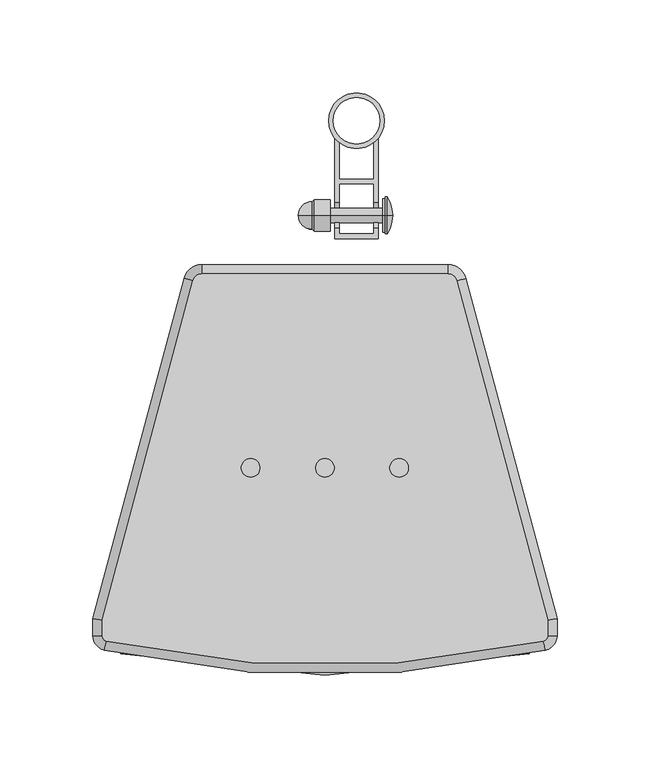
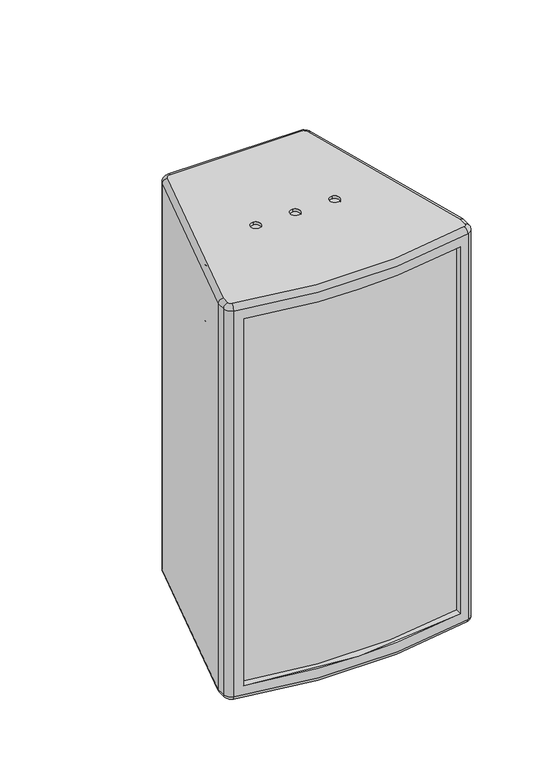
"""IFC4 building model written with IfcOpenShell, lengths in millimetres: proxy geometry, ePS8-WM02-WVM : ePS8-WM02-WVM."""

from ifc_helpers import new_model, si_unit, point, frame, frame_2d, origin, place, context, project, spatial, polyline, circle_curve, ellipse_curve, trimmed, segment, composite_curve, outline, extrude, source, transform, mapped, element, save
from ifc_brep_helpers import plane_surface, cylinder_surface, revolved_surface, advanced_brep


def generic_models_e8bc4f5e(model_context):
    return source(origin(), model_context, "Body", "SolidModel", [
        advanced_brep(
        [(92.9999424, -313.0641688, 145.5390379), (92.9999424, -306.2137672, 145.5390379), (92.9999424, -306.2137672, -247.4609621), (92.9999424, -313.0641688, -247.4609621), (-88.0680581, -112.2059048, 160.5390379), (-137.0000576, -294.822613, 160.5390379), (-137.0000576, -303.3294755, 160.5390379), (-134.670601, -306.2535773, 160.5390379), (100.6704859, -306.2535773, 160.5390379), (102.9999424, -303.3294755, 160.5390379), (102.9999424, -294.822613, 160.5390379), (54.067943, -112.2059048, 160.5390379), (49.2383138, -108.5, 160.5390379), (-83.2384289, -108.5, 160.5390379), (-17.0000576, -218.0, 160.5390379), (-17.0000576, -208.0, 160.5390379), (-57.0000576, -218.0, 160.5390379), (-57.0000576, -208.0, 160.5390379), (22.9999424, -218.0, 160.5390379), (22.9999424, -208.0, 160.5390379), (-137.0000576, -294.822613, -262.4609621), (-88.0680581, -112.2059048, -262.4609621), (-83.2384289, -108.5, -262.4609621), (49.2383138, -108.5, -262.4609621), (54.067943, -112.2059048, -262.4609621), (102.9999424, -294.822613, -262.4609621), (102.9999424, -303.3294755, -262.4609621), (100.6704859, -306.2535773, -262.4609621), (-134.670601, -306.2535773, -262.4609621), (-137.0000576, -303.3294755, -262.4609621), (-17.0000576, -208.0, -262.4609621), (-17.0000576, -218.0, -262.4609621), (-57.0000576, -208.0, -262.4609621), (-57.0000576, -218.0, -262.4609621), (22.9999424, -208.0, -262.4609621), (22.9999424, -218.0, -262.4609621), (-83.2384289, -103.5, 155.5390379), (49.2383138, -103.5, 155.5390379), (49.2383138, -103.5, -257.4609621), (-83.2384289, -103.5, -257.4609621), (-64.3433398, -103.5, -30.9566602), (-75.6566602, -103.5, -30.9566602), (5.6566602, -103.5, -30.9566602), (-5.6566602, -103.5, -30.9566602), (5.6566602, -103.5, 39.0433398), (-5.6566602, -103.5, 39.0433398), (101.7880584, -311.1270803, 155.5390379), (-135.7881735, -311.1270803, 155.5390379), (-135.7881735, -311.1270803, -257.460962), (101.7880584, -311.1270803, -257.4609621), (-127.0000576, -313.0641688, 145.5390379), (-127.0000576, -313.0641688, -247.4609621), (107.9999424, -303.3294755, 155.5390379), (107.9999424, -303.3294755, -257.4609621), (107.9999424, -294.1643505, 155.5390379), (107.9999424, -294.1643505, -257.4609621), (58.8975721, -110.9118096, 155.5390379), (58.8975721, -110.9118096, -257.4609621), (-92.8976872, -110.9118096, 155.5390379), (-92.8976872, -110.9118096, -257.4609621), (-142.0000576, -294.1643505, 155.5390379), (-142.0000576, -294.1643505, -257.4609621), (-142.0000576, -303.3294755, 155.5390379), (-142.0000576, -303.3294755, -257.4609621), (-17.0000576, -208.0, 157.5390379), (-17.0000576, -218.0, 157.5390379), (-57.0000576, -208.0, 157.5390379), (-57.0000576, -218.0, 157.5390379), (22.9999424, -208.0, 157.5390379), (22.9999424, -218.0, 157.5390379), (-127.0000576, -306.3234349, 145.5390379), (-127.0000576, -306.3234349, -247.4609621), (-17.0000576, -208.0, -259.4609621), (-17.0000576, -218.0, -259.4609621), (-57.0000576, -208.0, -259.4609621), (-57.0000576, -218.0, -259.4609621), (22.9999424, -208.0, -259.4609621), (22.9999424, -218.0, -259.4609621), (-64.3433398, -106.5, -30.9566602), (-75.6566602, -106.5, -30.9566602), (5.6566602, -106.5, -30.9566602), (-5.6566602, -106.5, -30.9566602), (5.6566602, -106.5, 39.0433398), (-5.6566602, -106.5, 39.0433398)],
        [
            (0, 1),
            (1, 2),
            (2, 3),
            (3, 0),
            (4, 5),
            (5, 6),
            (6, 7, circle_curve(frame((-134.0000576, -303.3294755, 160.5390379), z_axis=(0.0, 0.0, 1.0), x_axis=(-0.22351449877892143, -0.9747006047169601, 0.0)), 3.0)),
            (7, 8, circle_curve(frame((-17.0000576, 206.8833804, 160.5390379), z_axis=(0.0, 0.0, 1.0), x_axis=(0.22351449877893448, -0.974700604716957, 0.0)), 526.4559755)),
            (8, 9, circle_curve(frame((99.9999424, -303.3294755, 160.5390379), z_axis=(0.0, 0.0, 1.0), x_axis=(1.0, 0.0, 0.0)), 3.0)),
            (9, 10),
            (10, 11),
            (11, 12, circle_curve(frame((49.2383138, -113.5, 160.5390379), z_axis=(0.0, 0.0, 1.0), x_axis=(0.0, 1.0, 0.0)), 5.0)),
            (12, 13),
            (13, 4, circle_curve(frame((-83.2384289, -113.5, 160.5390379), z_axis=(0.0, 0.0, 1.0), x_axis=(-0.965925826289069, 0.2588190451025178, 0.0)), 5.0)),
            (14, 15, circle_curve(frame((-17.0000576, -213.0, 160.5390379), z_axis=(0.0, 0.0, -1.0), x_axis=(0.0, -1.0, 0.0)), 5.0)),
            (15, 14, circle_curve(frame((-17.0000576, -213.0, 160.5390379), z_axis=(0.0, 0.0, -1.0), x_axis=(0.0, -1.0, 0.0)), 5.0)),
            (16, 17, circle_curve(frame((-57.0000576, -213.0, 160.5390379), z_axis=(0.0, 0.0, -1.0), x_axis=(0.0, -1.0, 0.0)), 5.0)),
            (17, 16, circle_curve(frame((-57.0000576, -213.0, 160.5390379), z_axis=(0.0, 0.0, -1.0), x_axis=(0.0, -1.0, 0.0)), 5.0)),
            (18, 19, circle_curve(frame((22.9999424, -213.0, 160.5390379), z_axis=(0.0, 0.0, -1.0), x_axis=(0.0, -1.0, 0.0)), 5.0)),
            (19, 18, circle_curve(frame((22.9999424, -213.0, 160.5390379), z_axis=(0.0, 0.0, -1.0), x_axis=(0.0, -1.0, 0.0)), 5.0)),
            (20, 21),
            (21, 22, circle_curve(frame((-83.2384289, -113.5, -262.4609621), z_axis=(0.0, 0.0, -1.0), x_axis=(-0.96592582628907, 0.25881904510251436, 0.0)), 5.0)),
            (22, 23),
            (23, 24, circle_curve(frame((49.2383138, -113.5, -262.4609621), z_axis=(0.0, 0.0, -1.0), x_axis=(0.0, 1.0, 0.0)), 5.0)),
            (24, 25),
            (25, 26),
            (26, 27, circle_curve(frame((99.9999424, -303.3294755, -262.4609621), z_axis=(0.0, 0.0, -1.0), x_axis=(1.0, 0.0, 0.0)), 3.0)),
            (27, 28, circle_curve(frame((-17.0000576, 206.8833804, -262.4609621), z_axis=(0.0, 0.0, -1.0), x_axis=(0.22351449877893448, -0.974700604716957, 0.0)), 526.4559755)),
            (28, 29, circle_curve(frame((-134.0000576, -303.3294755, -262.4609621), z_axis=(0.0, 0.0, -1.0), x_axis=(-0.22351449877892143, -0.9747006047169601, 0.0)), 3.0)),
            (29, 20),
            (30, 31, circle_curve(frame((-17.0000576, -213.0, -262.4609621), z_axis=(0.0, 0.0, 1.0), x_axis=(0.0, -1.0, 0.0)), 5.0)),
            (31, 30, circle_curve(frame((-17.0000576, -213.0, -262.4609621), z_axis=(0.0, 0.0, 1.0), x_axis=(0.0, -1.0, 0.0)), 5.0)),
            (32, 33, circle_curve(frame((-57.0000576, -213.0, -262.4609621), z_axis=(0.0, 0.0, 1.0), x_axis=(0.0, -1.0, 0.0)), 5.0)),
            (33, 32, circle_curve(frame((-57.0000576, -213.0, -262.4609621), z_axis=(0.0, 0.0, 1.0), x_axis=(0.0, -1.0, 0.0)), 5.0)),
            (34, 35, circle_curve(frame((22.9999424, -213.0, -262.4609621), z_axis=(0.0, 0.0, 1.0), x_axis=(0.0, -1.0, 0.0)), 5.0)),
            (35, 34, circle_curve(frame((22.9999424, -213.0, -262.4609621), z_axis=(0.0, 0.0, 1.0), x_axis=(0.0, -1.0, 0.0)), 5.0)),
            (36, 37),
            (37, 38),
            (38, 39),
            (39, 36),
            (40, 41, circle_curve(frame((-70.0, -103.5, -30.9566602), z_axis=(0.0, -1.0, 0.0), x_axis=(-1.0, 0.0, 0.0)), 5.6566602)),
            (41, 40, circle_curve(frame((-70.0, -103.5, -30.9566602), z_axis=(0.0, -1.0, 0.0), x_axis=(-1.0, 0.0, 0.0)), 5.6566602)),
            (42, 43, circle_curve(frame((0.0, -103.5, -30.9566602), z_axis=(0.0, -1.0, 0.0), x_axis=(-1.0, 0.0, 0.0)), 5.6566602)),
            (43, 42, circle_curve(frame((0.0, -103.5, -30.9566602), z_axis=(0.0, -1.0, 0.0), x_axis=(-1.0, 0.0, 0.0)), 5.6566602)),
            (44, 45, circle_curve(frame((0.0, -103.5, 39.0433398), z_axis=(0.0, -1.0, 0.0), x_axis=(-1.0, 0.0, 0.0)), 5.6566602)),
            (45, 44, circle_curve(frame((0.0, -103.5, 39.0433398), z_axis=(0.0, -1.0, 0.0), x_axis=(-1.0, 0.0, 0.0)), 5.6566602)),
            (46, 47, circle_curve(frame((-17.0000576, 206.8833804, 155.5390379), z_axis=(0.0, 0.0, -1.0), x_axis=(1.0, 0.0, 0.0)), 531.4559755)),
            (47, 48),
            (48, 49, circle_curve(frame((-17.0000576, 206.8833804, -257.4609621), z_axis=(0.0, 0.0, 1.0), x_axis=(1.0, 0.0, 0.0)), 531.4559755)),
            (49, 46),
            (50, 0, circle_curve(frame((-17.0000576, 206.8833804, 145.5390379), z_axis=(0.0, 0.0, 1.0), x_axis=(1.0, 0.0, 0.0)), 531.4559755)),
            (3, 51, circle_curve(frame((-17.0000576, 206.8833804, -247.4609621), z_axis=(0.0, 0.0, -1.0), x_axis=(1.0, 0.0, 0.0)), 531.4559755)),
            (51, 50),
            (52, 46, circle_curve(frame((99.9999424, -303.3294755, 155.5390379), z_axis=(0.0, 0.0, -1.0), x_axis=(1.0, 0.0, 0.0)), 8.0)),
            (49, 53, circle_curve(frame((99.9999424, -303.3294755, -257.4609621), z_axis=(0.0, 0.0, 1.0), x_axis=(1.0, 0.0, 0.0)), 8.0)),
            (53, 52),
            (54, 52),
            (53, 55),
            (55, 54),
            (56, 54),
            (55, 57),
            (57, 56),
            (37, 56, circle_curve(frame((49.2383138, -113.5, 155.5390379), z_axis=(0.0, 0.0, -1.0), x_axis=(1.0, 0.0, 0.0)), 10.0)),
            (57, 38, circle_curve(frame((49.2383138, -113.5, -257.4609621), z_axis=(0.0, 0.0, 1.0), x_axis=(1.0, 0.0, 0.0)), 10.0)),
            (58, 36, circle_curve(frame((-83.2384289, -113.5, 155.5390379), z_axis=(0.0, 0.0, -1.0), x_axis=(1.0, 0.0, 0.0)), 10.0)),
            (39, 59, circle_curve(frame((-83.2384289, -113.5, -257.4609621), z_axis=(0.0, 0.0, 1.0), x_axis=(1.0, 0.0, 0.0)), 10.0)),
            (59, 58),
            (60, 58),
            (59, 61),
            (61, 60),
            (62, 60),
            (61, 63),
            (63, 62),
            (47, 62, circle_curve(frame((-134.0000576, -303.3294755, 155.5390379), z_axis=(0.0, 0.0, -1.0), x_axis=(1.0, 0.0, 0.0)), 8.0)),
            (63, 48, circle_curve(frame((-134.0000576, -303.3294755, -257.4609621), z_axis=(0.0, 0.0, 1.0), x_axis=(1.0, 0.0, 0.0)), 8.0)),
            (64, 65, circle_curve(frame((-17.0000576, -213.0, 157.5390379), z_axis=(0.0, 0.0, 1.0), x_axis=(0.0, -1.0, 0.0)), 5.0)),
            (65, 64, circle_curve(frame((-17.0000576, -213.0, 157.5390379), z_axis=(0.0, 0.0, 1.0), x_axis=(0.0, -1.0, 0.0)), 5.0)),
            (66, 67, circle_curve(frame((-57.0000576, -213.0, 157.5390379), z_axis=(0.0, 0.0, 1.0), x_axis=(0.0, -1.0, 0.0)), 5.0)),
            (67, 66, circle_curve(frame((-57.0000576, -213.0, 157.5390379), z_axis=(0.0, 0.0, 1.0), x_axis=(0.0, -1.0, 0.0)), 5.0)),
            (68, 69, circle_curve(frame((22.9999424, -213.0, 157.5390379), z_axis=(0.0, 0.0, 1.0), x_axis=(0.0, -1.0, 0.0)), 5.0)),
            (69, 68, circle_curve(frame((22.9999424, -213.0, 157.5390379), z_axis=(0.0, 0.0, 1.0), x_axis=(0.0, -1.0, 0.0)), 5.0)),
            (64, 15),
            (14, 65),
            (66, 17),
            (16, 67),
            (68, 19),
            (18, 69),
            (50, 70),
            (70, 1, circle_curve(frame((-17.2541484, 203.4531533, 145.5390379), z_axis=(0.0, 0.0, 1.0), x_axis=(1.0, 0.0, 0.0)), 521.4559755)),
            (2, 71, circle_curve(frame((-17.2541484, 203.4531533, -247.4609621), z_axis=(0.0, 0.0, -1.0), x_axis=(1.0, 0.0, 0.0)), 521.4559755)),
            (71, 51),
            (70, 71),
            (4, 58, circle_curve(frame((-88.0680581, -112.2059048, 155.5390379), z_axis=(-0.2588190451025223, -0.9659258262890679, 0.0), x_axis=(-0.9659258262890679, 0.2588190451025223, 0.0)), 5.0)),
            (60, 5, ellipse_curve(frame((-137.0000576, -294.822613, 155.5390379), z_axis=(0.13052619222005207, 0.9914448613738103, 0.0), x_axis=(0.9914448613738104, -0.13052619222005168, 0.0)), 5.0431448, 5.0)),
            (13, 36, circle_curve(frame((-83.2384289, -108.5, 155.5390379), z_axis=(-0.9999999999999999, 0.0, 0.0), x_axis=(0.0, 0.9999999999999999, 0.0)), 5.0)),
            (12, 37, circle_curve(frame((49.2383138, -108.5, 155.5390379), z_axis=(-1.0, 0.0, 0.0), x_axis=(0.0, 1.0, 0.0)), 5.0)),
            (11, 56, circle_curve(frame((54.067943, -112.2059048, 155.5390379), z_axis=(-0.25881904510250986, 0.9659258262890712, 0.0), x_axis=(0.9659258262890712, 0.25881904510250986, 0.0)), 5.0)),
            (10, 54, ellipse_curve(frame((102.9999424, -294.822613, 155.5390379), z_axis=(-0.13052619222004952, 0.9914448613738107, 0.0), x_axis=(0.9914448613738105, 0.1305261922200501, 0.0)), 5.0431448, 5.0)),
            (62, 6, circle_curve(frame((-137.0000576, -303.3294755, 155.5390379), z_axis=(0.0, 1.0, 0.0), x_axis=(-1.0, 0.0, 0.0)), 5.0)),
            (9, 52, circle_curve(frame((102.9999424, -303.3294755, 155.5390379), z_axis=(0.0, 1.0, 0.0), x_axis=(1.0, 0.0, 0.0)), 5.0)),
            (8, 46, circle_curve(frame((100.6704859, -306.2535773, 155.5390379), z_axis=(0.9747006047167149, 0.22351449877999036, 0.0), x_axis=(0.22351449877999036, -0.9747006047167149, 0.0)), 5.0)),
            (7, 47, circle_curve(frame((-134.670601, -306.2535773, 155.5390379), z_axis=(0.9747006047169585, -0.22351449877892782, 0.0), x_axis=(-0.22351449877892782, -0.9747006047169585, 0.0)), 5.0)),
            (59, 21, circle_curve(frame((-88.0680581, -112.2059048, -257.4609621), z_axis=(-0.25881904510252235, -0.9659258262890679, 0.0), x_axis=(-0.9659258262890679, 0.25881904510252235, 0.0)), 5.0)),
            (20, 61, ellipse_curve(frame((-137.0000576, -294.822613, -257.4609621), z_axis=(0.1305261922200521, 0.9914448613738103, 0.0), x_axis=(0.9914448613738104, -0.13052619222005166, 0.0)), 5.0431448, 5.0)),
            (39, 22, circle_curve(frame((-83.2384289, -108.5, -257.4609621), z_axis=(-1.0, 0.0, 0.0), x_axis=(0.0, 1.0, 0.0)), 5.0)),
            (38, 23, circle_curve(frame((49.2383138, -108.5, -257.4609621), z_axis=(-1.0, 0.0, 0.0), x_axis=(0.0, 1.0, 0.0)), 5.0)),
            (57, 24, circle_curve(frame((54.067943, -112.2059048, -257.4609621), z_axis=(-0.2588190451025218, 0.9659258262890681, 0.0), x_axis=(0.9659258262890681, 0.2588190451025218, 0.0)), 5.0)),
            (55, 25, ellipse_curve(frame((102.9999424, -294.822613, -257.4609621), z_axis=(-0.13052619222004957, 0.9914448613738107, 0.0), x_axis=(0.9914448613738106, 0.13052619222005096, 0.0)), 5.0431448, 5.0)),
            (29, 63, circle_curve(frame((-137.0000576, -303.3294755, -257.4609621), z_axis=(0.0, 1.0, 0.0), x_axis=(-1.0, 0.0, 0.0)), 5.0)),
            (53, 26, circle_curve(frame((102.9999424, -303.3294755, -257.4609621), z_axis=(0.0, 1.0, 0.0), x_axis=(1.0, 0.0, 0.0)), 5.0)),
            (49, 27, circle_curve(frame((100.6704859, -306.2535773, -257.4609621), z_axis=(0.9747006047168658, 0.22351449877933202, 0.0), x_axis=(0.22351449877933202, -0.9747006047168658, 0.0)), 5.0)),
            (48, 28, circle_curve(frame((-134.670601, -306.2535773, -257.4609621), z_axis=(0.9747006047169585, -0.22351449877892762, 0.0), x_axis=(-0.22351449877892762, -0.9747006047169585, 0.0)), 5.0)),
            (72, 73, circle_curve(frame((-17.0000576, -213.0, -259.4609621), z_axis=(0.0, 0.0, -1.0), x_axis=(0.0, -1.0, 0.0)), 5.0)),
            (73, 72, circle_curve(frame((-17.0000576, -213.0, -259.4609621), z_axis=(0.0, 0.0, -1.0), x_axis=(0.0, -1.0, 0.0)), 5.0)),
            (74, 75, circle_curve(frame((-57.0000576, -213.0, -259.4609621), z_axis=(0.0, 0.0, -1.0), x_axis=(0.0, -1.0, 0.0)), 5.0)),
            (75, 74, circle_curve(frame((-57.0000576, -213.0, -259.4609621), z_axis=(0.0, 0.0, -1.0), x_axis=(0.0, -1.0, 0.0)), 5.0)),
            (76, 77, circle_curve(frame((22.9999424, -213.0, -259.4609621), z_axis=(0.0, 0.0, -1.0), x_axis=(0.0, -1.0, 0.0)), 5.0)),
            (77, 76, circle_curve(frame((22.9999424, -213.0, -259.4609621), z_axis=(0.0, 0.0, -1.0), x_axis=(0.0, -1.0, 0.0)), 5.0)),
            (73, 31),
            (30, 72),
            (75, 33),
            (32, 74),
            (77, 35),
            (34, 76),
            (78, 79, circle_curve(frame((-70.0, -106.5, -30.9566602), z_axis=(0.0, 1.0, 0.0), x_axis=(-1.0, 0.0, 0.0)), 5.6566602)),
            (79, 78, circle_curve(frame((-70.0, -106.5, -30.9566602), z_axis=(0.0, 1.0, 0.0), x_axis=(-1.0, 0.0, 0.0)), 5.6566602)),
            (80, 81, circle_curve(frame((0.0, -106.5, -30.9566602), z_axis=(0.0, 1.0, 0.0), x_axis=(-1.0, 0.0, 0.0)), 5.6566602)),
            (81, 80, circle_curve(frame((0.0, -106.5, -30.9566602), z_axis=(0.0, 1.0, 0.0), x_axis=(-1.0, 0.0, 0.0)), 5.6566602)),
            (82, 83, circle_curve(frame((0.0, -106.5, 39.0433398), z_axis=(0.0, 1.0, 0.0), x_axis=(-1.0, 0.0, 0.0)), 5.6566602)),
            (83, 82, circle_curve(frame((0.0, -106.5, 39.0433398), z_axis=(0.0, 1.0, 0.0), x_axis=(-1.0, 0.0, 0.0)), 5.6566602)),
            (79, 41),
            (40, 78),
            (81, 43),
            (42, 80),
            (83, 45),
            (44, 82),
        ],
        [
            plane_surface(frame((92.9999424, -313.0641688, 145.5390379), z_axis=(-1.0, 0.0, 0.0), x_axis=(0.0, 0.0, -1.0))),
            plane_surface(frame((107.9999424, -303.3294755, 160.5390379), z_axis=(0.0, 0.0, 1.0), x_axis=(0.0, 1.0, 0.0))),
            plane_surface(frame((107.9999424, -303.3294755, -262.4609621), z_axis=(0.0, 0.0, -1.0), x_axis=(0.0, -1.0, 0.0))),
            plane_surface(frame((49.2383138, -103.5, 160.5390379), z_axis=(0.0, 1.0, 0.0), x_axis=(0.0, 0.0, -1.0))),
            cylinder_surface(frame((-17.0000576, 206.8833804, -262.4609621), z_axis=(0.0, 0.0, 1.0), x_axis=(1.0, 0.0, 0.0)), 531.4559755),
            cylinder_surface(frame((99.9999424, -303.3294755, -262.4609621), z_axis=(0.0, 0.0, 1.0), x_axis=(1.0, 0.0, 0.0)), 8.0),
            plane_surface(frame((107.9999424, -303.3294755, 160.5390379), z_axis=(1.0, 0.0, 0.0), x_axis=(0.0, 0.0, -1.0))),
            plane_surface(frame((107.9999424, -294.1643505, 160.5390379), z_axis=(0.9659258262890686, 0.25881904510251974, 0.0), x_axis=(0.0, 0.0, -1.0))),
            cylinder_surface(frame((49.2383138, -113.5, -262.4609621), z_axis=(0.0, 0.0, 1.0), x_axis=(1.0, 0.0, 0.0)), 10.0),
            cylinder_surface(frame((-83.2384289, -113.5, -262.4609621), z_axis=(0.0, 0.0, 1.0), x_axis=(1.0, 0.0, 0.0)), 10.0),
            plane_surface(frame((-92.8976872, -110.9118096, 160.5390379), z_axis=(-0.965925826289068, 0.2588190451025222, 0.0), x_axis=(0.0, 0.0, -1.0))),
            plane_surface(frame((-142.0000576, -294.1643505, 160.5390379), z_axis=(-1.0, 0.0, 0.0), x_axis=(0.0, 0.0, -1.0))),
            cylinder_surface(frame((-134.0000576, -303.3294755, -262.4609621), z_axis=(0.0, 0.0, 1.0), x_axis=(1.0, 0.0, 0.0)), 8.0),
            plane_surface(frame((-17.0000576, -218.0, 157.5390379), z_axis=(0.0, 0.0, 1.0), x_axis=(-1.0, 0.0, 0.0))),
            revolved_surface(polyline([(-17.0000576, -218.0, 160.5390379), (-17.0000576, -218.0, 157.5390379)]), (-17.0000576, -213.0, 157.5390379), (0.0, 0.0, 1.0)),
            revolved_surface(polyline([(-57.0000576, -218.0, 160.5390379), (-57.0000576, -218.0, 157.5390379)]), (-57.0000576, -213.0, 160.5390379), (0.0, 0.0, 1.0)),
            revolved_surface(polyline([(22.9999424, -218.0, 160.5390379), (22.9999424, -218.0, 157.5390379)]), (22.9999424, -213.0, 160.5390379), (0.0, 0.0, 1.0)),
            plane_surface(frame((92.9999424, -370.7599178, 145.5390379), z_axis=(0.0, 0.0, -1.0), x_axis=(0.0, 1.0, 0.0))),
            plane_surface(frame((92.9999424, -370.7599178, -247.4609621), z_axis=(0.0, 0.0, 1.0), x_axis=(0.0, -1.0, 0.0))),
            cylinder_surface(frame((-17.2541484, 203.4531533, -247.4609621), z_axis=(0.0, 0.0, -1.0), x_axis=(1.0, 0.0, 0.0)), 521.4559755),
            plane_surface(frame((-127.0000576, -306.3234349, 145.5390379), z_axis=(1.0, 0.0, 0.0), x_axis=(0.0, 0.0, -1.0))),
            cylinder_surface(frame((-137.1704284, -295.4584457, 155.5390379), z_axis=(0.2588190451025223, 0.9659258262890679, 0.0), x_axis=(-0.9659258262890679, 0.2588190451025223, 0.0)), 5.0),
            revolved_surface(trimmed(ellipse_curve(frame((-88.0680581, -112.2059048, 155.5390379), z_axis=(-0.2588190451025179, -0.965925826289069, 0.0), x_axis=(-0.965925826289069, 0.2588190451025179, 0.0)), 5.0, 5.0), [point((-88.0680581, -112.2059048, 160.5390379))], [point((-92.8976872, -110.9118096, 155.5390379))], True, "CARTESIAN"), (-83.2384289, -113.5, 160.5390379), (0.0, 0.0, -1.0)),
            cylinder_surface(frame((-83.2384289, -108.5, 155.5390379), z_axis=(1.0, 0.0, 0.0), x_axis=(0.0, 1.0, 0.0)), 5.0),
            revolved_surface(trimmed(ellipse_curve(frame((49.2383138, -108.5, 155.5390379), z_axis=(-1.0, 0.0, 0.0), x_axis=(0.0, 1.0, 0.0)), 5.0, 5.0), [point((49.2383138, -108.5, 160.5390379))], [point((49.2383138, -103.5, 155.5390379))], True, "CARTESIAN"), (49.2383138, -113.5, 160.5390379), (0.0, 0.0, -1.0)),
            cylinder_surface(frame((54.067943, -112.2059048, 155.5390379), z_axis=(0.2588190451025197, -0.9659258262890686, 0.0), x_axis=(0.9659258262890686, 0.2588190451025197, 0.0)), 5.0),
            cylinder_surface(frame((-137.0000576, -303.3294755, 155.5390379), z_axis=(0.0, 1.0, 0.0), x_axis=(-1.0, 0.0, 0.0)), 5.0),
            cylinder_surface(frame((102.9999424, -294.1643505, 155.5390379), z_axis=(0.0, -1.0, 0.0), x_axis=(1.0, 0.0, 0.0)), 5.0),
            revolved_surface(trimmed(ellipse_curve(frame((102.9999424, -303.3294755, 155.5390379), z_axis=(0.0, 1.0, 0.0), x_axis=(1.0, 0.0, 0.0)), 5.0, 5.0), [point((102.9999424, -303.3294755, 160.5390379))], [point((107.9999424, -303.3294755, 155.5390379))], True, "CARTESIAN"), (99.9999424, -303.3294755, 160.5390379), (0.0, 0.0, -1.0)),
            revolved_surface(trimmed(ellipse_curve(frame((100.6704859, -306.2535773, 155.5390379), z_axis=(0.974700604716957, 0.22351449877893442, 0.0), x_axis=(0.22351449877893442, -0.974700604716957, 0.0)), 5.0, 5.0), [point((100.6704859, -306.2535773, 160.5390379))], [point((101.7880584, -311.1270803, 155.5390379))], True, "CARTESIAN"), (-17.0000576, 206.8833804, 160.5390379), (0.0, 0.0, -1.0)),
            revolved_surface(trimmed(ellipse_curve(frame((-134.670601, -306.2535773, 155.5390379), z_axis=(0.9747006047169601, -0.22351449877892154, 0.0), x_axis=(-0.22351449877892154, -0.9747006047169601, 0.0)), 5.0, 5.0), [point((-134.670601, -306.2535773, 160.5390379))], [point((-135.7881735, -311.1270803, 155.5390379))], True, "CARTESIAN"), (-134.0000576, -303.3294755, 160.5390379), (0.0, 0.0, -1.0)),
            cylinder_surface(frame((-137.1704284, -295.4584457, -257.4609621), z_axis=(0.25881904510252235, 0.9659258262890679, 0.0), x_axis=(-0.9659258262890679, 0.25881904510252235, 0.0)), 5.0),
            revolved_surface(trimmed(ellipse_curve(frame((-88.0680581, -112.2059048, -257.4609621), z_axis=(-0.2588190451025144, -0.96592582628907, 0.0), x_axis=(-0.96592582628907, 0.2588190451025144, 0.0)), 5.0, 5.0), [point((-92.8976872, -110.9118096, -257.4609621))], [point((-88.0680581, -112.2059048, -262.4609621))], True, "CARTESIAN"), (-83.2384289, -113.5, -262.4609621), (0.0, 0.0, -1.0)),
            cylinder_surface(frame((-83.2384289, -108.5, -257.4609621), z_axis=(1.0, 0.0, 0.0), x_axis=(0.0, 1.0, 0.0)), 5.0),
            revolved_surface(trimmed(ellipse_curve(frame((49.2383138, -108.5, -257.4609621), z_axis=(-1.0, 0.0, 0.0), x_axis=(0.0, 1.0, 0.0)), 5.0, 5.0), [point((49.2383138, -103.5, -257.4609621))], [point((49.2383138, -108.5, -262.4609621))], True, "CARTESIAN"), (49.2383138, -113.5, -262.4609621), (0.0, 0.0, -1.0)),
            cylinder_surface(frame((54.067943, -112.2059048, -257.4609621), z_axis=(0.25881904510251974, -0.9659258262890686, 0.0), x_axis=(0.9659258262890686, 0.25881904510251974, 0.0)), 5.0),
            cylinder_surface(frame((-137.0000576, -303.3294755, -257.4609621), z_axis=(0.0, 1.0, 0.0), x_axis=(-1.0, 0.0, 0.0)), 5.0),
            cylinder_surface(frame((102.9999424, -294.1643505, -257.4609621), z_axis=(0.0, -1.0, 0.0), x_axis=(1.0, 0.0, 0.0)), 5.0),
            revolved_surface(trimmed(ellipse_curve(frame((102.9999424, -303.3294755, -257.4609621), z_axis=(0.0, 1.0, 0.0), x_axis=(1.0, 0.0, 0.0)), 5.0, 5.0), [point((107.9999424, -303.3294755, -257.4609621))], [point((102.9999424, -303.3294755, -262.4609621))], True, "CARTESIAN"), (99.9999424, -303.3294755, -262.4609621), (0.0, 0.0, -1.0)),
            revolved_surface(trimmed(ellipse_curve(frame((100.6704859, -306.2535773, -257.4609621), z_axis=(0.974700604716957, 0.22351449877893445, 0.0), x_axis=(0.22351449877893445, -0.974700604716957, 0.0)), 5.0, 5.0), [point((101.7880584, -311.1270803, -257.4609621))], [point((100.6704859, -306.2535773, -262.4609621))], True, "CARTESIAN"), (-17.0000576, 206.8833804, -262.4609621), (0.0, 0.0, -1.0)),
            revolved_surface(trimmed(ellipse_curve(frame((-134.670601, -306.2535773, -257.4609621), z_axis=(0.9747006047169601, -0.22351449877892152, 0.0), x_axis=(-0.22351449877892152, -0.9747006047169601, 0.0)), 5.0, 5.0), [point((-135.7881735, -311.1270803, -257.4609621))], [point((-134.670601, -306.2535773, -262.4609621))], True, "CARTESIAN"), (-134.0000576, -303.3294755, -262.4609621), (0.0, 0.0, -1.0)),
            plane_surface(frame((-17.0000576, -218.0, -259.4609621), z_axis=(0.0, 0.0, -1.0), x_axis=(1.0, 0.0, 0.0))),
            revolved_surface(polyline([(-17.0000576, -218.0, -259.4609621), (-17.0000576, -218.0, -262.4609621)]), (-17.0000576, -213.0, -265.4609621), (0.0, 0.0, 1.0)),
            revolved_surface(polyline([(-57.0000576, -218.0, -259.4609621), (-57.0000576, -218.0, -262.4609621)]), (-57.0000576, -213.0, -262.4609621), (0.0, 0.0, 1.0)),
            revolved_surface(polyline([(22.9999424, -218.0, -259.4609621), (22.9999424, -218.0, -262.4609621)]), (22.9999424, -213.0, -262.4609621), (0.0, 0.0, 1.0)),
            plane_surface(frame((-75.6566602, -106.5, -30.9566602), z_axis=(0.0, 1.0, 0.0), x_axis=(0.0, 0.0, -1.0))),
            revolved_surface(polyline([(-75.6566602, -103.5, -30.9566602), (-75.6566602, -106.5, -30.9566602)]), (-70.0, -106.5, -30.9566602), (0.0, 1.0, 0.0)),
            revolved_surface(polyline([(-5.6566602, -103.5, -30.9566602), (-5.6566602, -106.5, -30.9566602)]), (0.0, -103.5, -30.9566602), (0.0, 1.0, 0.0)),
            revolved_surface(polyline([(-5.6566602, -103.5, 39.0433398), (-5.6566602, -106.5, 39.0433398)]), (0.0, -103.5, 39.0433398), (0.0, 1.0, 0.0)),
        ],
        [
            (0, [[1, 2, 3, 4]]),
            (1, [[5, 6, 7, 8, 9, 10, 11, 12, 13, 14], [15, 16], [17, 18], [19, 20]]),
            (2, [[21, 22, 23, 24, 25, 26, 27, 28, 29, 30], [31, 32], [33, 34], [35, 36]]),
            (3, [[37, 38, 39, 40], [41, 42], [43, 44], [45, 46]]),
            (4, [[47, 48, 49, 50], [51, -4, 52, 53]]),
            (5, [[54, -50, 55, 56]]),
            (6, [[57, -56, 58, 59]]),
            (7, [[60, -59, 61, 62]]),
            (8, [[63, -62, 64, -38]]),
            (9, [[65, -40, 66, 67]]),
            (10, [[68, -67, 69, 70]]),
            (11, [[71, -70, 72, 73]]),
            (12, [[74, -73, 75, -48]]),
            (13, [[76, 77]]),
            (13, [[78, 79]]),
            (13, [[80, 81]]),
            (14, [[-76, 82, -15, 83]]),
            (14, [[-77, -83, -16, -82]]),
            (15, [[-78, 84, -17, 85]]),
            (15, [[-79, -85, -18, -84]]),
            (16, [[-80, 86, -19, 87]]),
            (16, [[-81, -87, -20, -86]]),
            (17, [[88, 89, -1, -51]]),
            (18, [[-3, 90, 91, -52]]),
            (19, [[-89, 92, -90, -2]]),
            (20, [[-88, -53, -91, -92]]),
            (21, [[93, -68, 94, -5]]),
            (22, [[-93, -14, 95, -65]]),
            (23, [[-95, -13, 96, -37]]),
            (24, [[-96, -12, 97, -63]]),
            (25, [[-97, -11, 98, -60]]),
            (26, [[-94, -71, 99, -6]]),
            (27, [[-98, -10, 100, -57]]),
            (28, [[-100, -9, 101, -54]]),
            (29, [[-101, -8, 102, -47]]),
            (30, [[-99, -74, -102, -7]]),
            (31, [[103, -21, 104, -69]]),
            (32, [[-103, -66, 105, -22]]),
            (33, [[-105, -39, 106, -23]]),
            (34, [[-106, -64, 107, -24]]),
            (35, [[-107, -61, 108, -25]]),
            (36, [[-104, -30, 109, -72]]),
            (37, [[-108, -58, 110, -26]]),
            (38, [[-110, -55, 111, -27]]),
            (39, [[-111, -49, 112, -28]]),
            (40, [[-109, -29, -112, -75]]),
            (41, [[113, 114]]),
            (41, [[115, 116]]),
            (41, [[117, 118]]),
            (42, [[-114, 119, -31, 120]]),
            (42, [[-113, -120, -32, -119]]),
            (43, [[-116, 121, -33, 122]]),
            (43, [[-115, -122, -34, -121]]),
            (44, [[-118, 123, -35, 124]]),
            (44, [[-117, -124, -36, -123]]),
            (45, [[125, 126]]),
            (45, [[127, 128]]),
            (45, [[129, 130]]),
            (46, [[-126, 131, -41, 132]]),
            (46, [[-125, -132, -42, -131]]),
            (47, [[-128, 133, -43, 134]]),
            (47, [[-127, -134, -44, -133]]),
            (48, [[-130, 135, -45, 136]]),
            (48, [[-129, -136, -46, -135]]),
        ],
    ),
        advanced_brep(
        [(16.4820858, -77.0, -39.5), (16.4820858, -77.0, -19.5), (19.4412891, -77.0, -29.5), (15.45, -77.0, -39.5), (15.45, -77.0, -19.5), (15.45, -77.0, -38.5), (15.45, -77.0, -20.5), (14.25, -77.0, -38.5), (14.25, -77.0, -20.5), (14.25, -77.0, -33.5), (14.25, -77.0, -25.5), (-14.25, -77.0, -33.5), (-14.25, -77.0, -25.5), (-14.25, -77.0, -38.018295), (-14.25, -77.0, -20.981705), (-22.8324989, -77.0, -38.018295), (-22.8324989, -77.0, -20.981705), (-23.85, -77.0, -37.0007939), (-23.85, -77.0, -21.9992061), (-31.3507939, -77.0, -29.5)],
        [
            (0, 1, circle_curve(frame((16.4820858, -77.0, -29.5), z_axis=(1.0, 0.0, 0.0), x_axis=(0.0, 0.0, 1.0)), 10.0)),
            (1, 2, circle_curve(frame((1.2644996, -77.0, -29.4410373), z_axis=(0.0, 1.0, 0.0), x_axis=(1.0, 0.0, 0.0)), 18.1768851)),
            (2, 0, circle_curve(frame((1.2644996, -77.0, -29.5589627), z_axis=(0.0, 1.0, 0.0), x_axis=(1.0, 0.0, 0.0)), 18.1768851)),
            (1, 0, circle_curve(frame((16.4820858, -77.0, -29.5), z_axis=(1.0, 0.0, 0.0), x_axis=(0.0, 0.0, 1.0)), 10.0)),
            (3, 4, circle_curve(frame((15.45, -77.0, -29.5), z_axis=(1.0, 0.0, 0.0), x_axis=(0.0, 0.0, 1.0)), 10.0)),
            (4, 1),
            (0, 3),
            (4, 3, circle_curve(frame((15.45, -77.0, -29.5), z_axis=(1.0, 0.0, 0.0), x_axis=(0.0, 0.0, 1.0)), 10.0)),
            (5, 6, circle_curve(frame((15.45, -77.0, -29.5), z_axis=(1.0, 0.0, 0.0), x_axis=(0.0, 0.0, 1.0)), 9.0)),
            (6, 4),
            (3, 5),
            (6, 5, circle_curve(frame((15.45, -77.0, -29.5), z_axis=(1.0, 0.0, 0.0), x_axis=(0.0, 0.0, 1.0)), 9.0)),
            (7, 8, circle_curve(frame((14.25, -77.0, -29.5), z_axis=(1.0, 0.0, 0.0), x_axis=(0.0, 0.0, 1.0)), 9.0)),
            (8, 6),
            (5, 7),
            (8, 7, circle_curve(frame((14.25, -77.0, -29.5), z_axis=(1.0, 0.0, 0.0), x_axis=(0.0, 0.0, 1.0)), 9.0)),
            (9, 10, circle_curve(frame((14.25, -77.0, -29.5), z_axis=(1.0, 0.0, 0.0), x_axis=(0.0, 0.0, 1.0)), 4.0)),
            (10, 8),
            (7, 9),
            (10, 9, circle_curve(frame((14.25, -77.0, -29.5), z_axis=(1.0, 0.0, 0.0), x_axis=(0.0, 0.0, 1.0)), 4.0)),
            (11, 12, circle_curve(frame((-14.25, -77.0, -29.5), z_axis=(1.0, 0.0, 0.0), x_axis=(0.0, 0.0, 1.0)), 4.0)),
            (12, 10),
            (9, 11),
            (12, 11, circle_curve(frame((-14.25, -77.0, -29.5), z_axis=(1.0, 0.0, 0.0), x_axis=(0.0, 0.0, 1.0)), 4.0)),
            (13, 14, circle_curve(frame((-14.25, -77.0, -29.5), z_axis=(1.0, 0.0, 0.0), x_axis=(0.0, 0.0, 1.0)), 8.518295)),
            (14, 12),
            (11, 13),
            (14, 13, circle_curve(frame((-14.25, -77.0, -29.5), z_axis=(1.0, 0.0, 0.0), x_axis=(0.0, 0.0, 1.0)), 8.518295)),
            (15, 16, circle_curve(frame((-22.8324989, -77.0, -29.5), z_axis=(1.0, 0.0, 0.0), x_axis=(0.0, 0.0, 1.0)), 8.518295)),
            (16, 14),
            (13, 15),
            (16, 15, circle_curve(frame((-22.8324989, -77.0, -29.5), z_axis=(1.0, 0.0, 0.0), x_axis=(0.0, 0.0, 1.0)), 8.518295)),
            (17, 18, circle_curve(frame((-23.85, -77.0, -29.5), z_axis=(1.0, 0.0, 0.0), x_axis=(0.0, 0.0, 1.0)), 7.5007939)),
            (18, 16),
            (15, 17),
            (18, 17, circle_curve(frame((-23.85, -77.0, -29.5), z_axis=(1.0, 0.0, 0.0), x_axis=(0.0, 0.0, 1.0)), 7.5007939)),
            (19, 18, circle_curve(frame((-23.85, -77.0, -29.5), z_axis=(0.0, 1.0, 0.0), x_axis=(1.0, 0.0, 0.0)), 7.5007939)),
            (17, 19, circle_curve(frame((-23.85, -77.0, -29.5), z_axis=(0.0, 1.0, 0.0), x_axis=(1.0, 0.0, 0.0)), 7.5007939)),
        ],
        [
            revolved_surface(trimmed(ellipse_curve(frame((1.2644996, -77.0, -29.4410373), z_axis=(0.0, -1.0, 0.0), x_axis=(1.0, 0.0, 0.0)), 18.1768851, 18.1768851), [point((19.4412891, -77.0, -29.5))], [point((16.4820858, -77.0, -19.5))], True, "CARTESIAN"), (-34.7415568, -77.0, -29.5), (-1.0, 0.0, 0.0)),
            cylinder_surface(frame((-34.7415568, -77.0, -29.5), z_axis=(-1.0, 0.0, 0.0), x_axis=(0.0, 0.0, 1.0)), 10.0),
            plane_surface(frame((15.45, -77.0, -29.5), z_axis=(-1.0, 0.0, 0.0), x_axis=(0.0, 0.0, 1.0))),
            cylinder_surface(frame((-34.7415568, -77.0, -29.5), z_axis=(-1.0, 0.0, 0.0), x_axis=(0.0, 0.0, 1.0)), 9.0),
            plane_surface(frame((14.25, -77.0, -29.5), z_axis=(-1.0, 0.0, 0.0), x_axis=(0.0, 0.0, 1.0))),
            cylinder_surface(frame((-34.7415568, -77.0, -29.5), z_axis=(-1.0, 0.0, 0.0), x_axis=(0.0, 0.0, 1.0)), 4.0),
            plane_surface(frame((-14.25, -77.0, -29.5), z_axis=(1.0, 0.0, 0.0), x_axis=(0.0, 0.0, 1.0))),
            cylinder_surface(frame((-34.7415568, -77.0, -29.5), z_axis=(-1.0, 0.0, 0.0), x_axis=(0.0, 0.0, 1.0)), 8.518295),
            revolved_surface(polyline([(-22.8324989, -77.0, -20.981705), (-23.85, -77.0, -21.9992061)]), (-34.7415568, -77.0, -29.5), (-1.0, 0.0, 0.0)),
            revolved_surface(trimmed(ellipse_curve(frame((-23.85, -77.0, -29.5), z_axis=(0.0, -1.0, 0.0), x_axis=(1.0, 0.0, 0.0)), 7.5007939, 7.5007939), [point((-23.85, -77.0, -21.9992061))], [point((-31.3507939, -77.0, -29.5))], True, "CARTESIAN"), (-34.7415568, -77.0, -29.5), (-1.0, 0.0, 0.0)),
        ],
        [
            (0, [[1, 2, 3]]),
            (0, [[4, -3, -2]]),
            (1, [[5, 6, -1, 7]]),
            (1, [[8, -7, -4, -6]]),
            (2, [[9, 10, -5, 11]]),
            (2, [[12, -11, -8, -10]]),
            (3, [[13, 14, -9, 15]]),
            (3, [[16, -15, -12, -14]]),
            (4, [[17, 18, -13, 19]]),
            (4, [[20, -19, -16, -18]]),
            (5, [[21, 22, -17, 23]]),
            (5, [[24, -23, -20, -22]]),
            (6, [[25, 26, -21, 27]]),
            (6, [[28, -27, -24, -26]]),
            (7, [[29, 30, -25, 31]]),
            (7, [[32, -31, -28, -30]]),
            (8, [[33, 34, -29, 35]]),
            (8, [[36, -35, -32, -34]]),
            (9, [[37, -33, 38]]),
            (9, [[-38, -36, -37]]),
        ],
    ),
        advanced_brep(
        [(16.4820858, -77.0, 20.55), (16.4820858, -77.0, 40.55), (19.4412891, -77.0, 30.55), (15.45, -77.0, 20.55), (15.45, -77.0, 40.55), (15.45, -77.0, 21.55), (15.45, -77.0, 39.55), (14.25, -77.0, 21.55), (14.25, -77.0, 39.55), (14.25, -77.0, 26.55), (14.25, -77.0, 34.55), (-14.25, -77.0, 26.55), (-14.25, -77.0, 34.55), (-14.25, -77.0, 22.031705), (-14.25, -77.0, 39.068295), (-22.8324989, -77.0, 22.031705), (-22.8324989, -77.0, 39.068295), (-23.85, -77.0, 23.0492061), (-23.85, -77.0, 38.0507939), (-31.3507939, -77.0, 30.55)],
        [
            (0, 1, circle_curve(frame((16.4820858, -77.0, 30.55), z_axis=(1.0, 0.0, 0.0), x_axis=(0.0, 0.0, 1.0)), 10.0)),
            (1, 2, circle_curve(frame((1.2644996, -77.0, 30.6089627), z_axis=(0.0, 1.0, 0.0), x_axis=(1.0, 0.0, 0.0)), 18.1768851)),
            (2, 0, circle_curve(frame((1.2644996, -77.0, 30.4910373), z_axis=(0.0, 1.0, 0.0), x_axis=(1.0, 0.0, 0.0)), 18.1768851)),
            (1, 0, circle_curve(frame((16.4820858, -77.0, 30.55), z_axis=(1.0, 0.0, 0.0), x_axis=(0.0, 0.0, 1.0)), 10.0)),
            (3, 4, circle_curve(frame((15.45, -77.0, 30.55), z_axis=(1.0, 0.0, 0.0), x_axis=(0.0, 0.0, 1.0)), 10.0)),
            (4, 1),
            (0, 3),
            (4, 3, circle_curve(frame((15.45, -77.0, 30.55), z_axis=(1.0, 0.0, 0.0), x_axis=(0.0, 0.0, 1.0)), 10.0)),
            (5, 6, circle_curve(frame((15.45, -77.0, 30.55), z_axis=(1.0, 0.0, 0.0), x_axis=(0.0, 0.0, 1.0)), 9.0)),
            (6, 4),
            (3, 5),
            (6, 5, circle_curve(frame((15.45, -77.0, 30.55), z_axis=(1.0, 0.0, 0.0), x_axis=(0.0, 0.0, 1.0)), 9.0)),
            (7, 8, circle_curve(frame((14.25, -77.0, 30.55), z_axis=(1.0, 0.0, 0.0), x_axis=(0.0, 0.0, 1.0)), 9.0)),
            (8, 6),
            (5, 7),
            (8, 7, circle_curve(frame((14.25, -77.0, 30.55), z_axis=(1.0, 0.0, 0.0), x_axis=(0.0, 0.0, 1.0)), 9.0)),
            (9, 10, circle_curve(frame((14.25, -77.0, 30.55), z_axis=(1.0, 0.0, 0.0), x_axis=(0.0, 0.0, 1.0)), 4.0)),
            (10, 8),
            (7, 9),
            (10, 9, circle_curve(frame((14.25, -77.0, 30.55), z_axis=(1.0, 0.0, 0.0), x_axis=(0.0, 0.0, 1.0)), 4.0)),
            (11, 12, circle_curve(frame((-14.25, -77.0, 30.55), z_axis=(1.0, 0.0, 0.0), x_axis=(0.0, 0.0, 1.0)), 4.0)),
            (12, 10),
            (9, 11),
            (12, 11, circle_curve(frame((-14.25, -77.0, 30.55), z_axis=(1.0, 0.0, 0.0), x_axis=(0.0, 0.0, 1.0)), 4.0)),
            (13, 14, circle_curve(frame((-14.25, -77.0, 30.55), z_axis=(1.0, 0.0, 0.0), x_axis=(0.0, 0.0, 1.0)), 8.518295)),
            (14, 12),
            (11, 13),
            (14, 13, circle_curve(frame((-14.25, -77.0, 30.55), z_axis=(1.0, 0.0, 0.0), x_axis=(0.0, 0.0, 1.0)), 8.518295)),
            (15, 16, circle_curve(frame((-22.8324989, -77.0, 30.55), z_axis=(1.0, 0.0, 0.0), x_axis=(0.0, 0.0, 1.0)), 8.518295)),
            (16, 14),
            (13, 15),
            (16, 15, circle_curve(frame((-22.8324989, -77.0, 30.55), z_axis=(1.0, 0.0, 0.0), x_axis=(0.0, 0.0, 1.0)), 8.518295)),
            (17, 18, circle_curve(frame((-23.85, -77.0, 30.55), z_axis=(1.0, 0.0, 0.0), x_axis=(0.0, 0.0, 1.0)), 7.5007939)),
            (18, 16),
            (15, 17),
            (18, 17, circle_curve(frame((-23.85, -77.0, 30.55), z_axis=(1.0, 0.0, 0.0), x_axis=(0.0, 0.0, 1.0)), 7.5007939)),
            (19, 18, circle_curve(frame((-23.85, -77.0, 30.55), z_axis=(0.0, 1.0, 0.0), x_axis=(1.0, 0.0, 0.0)), 7.5007939)),
            (17, 19, circle_curve(frame((-23.85, -77.0, 30.55), z_axis=(0.0, 1.0, 0.0), x_axis=(1.0, 0.0, 0.0)), 7.5007939)),
        ],
        [
            revolved_surface(trimmed(ellipse_curve(frame((1.2644996, -77.0, 30.6089627), z_axis=(0.0, -1.0, 0.0), x_axis=(1.0, 0.0, 0.0)), 18.1768851, 18.1768851), [point((19.4412891, -77.0, 30.55))], [point((16.4820858, -77.0, 40.55))], True, "CARTESIAN"), (-34.7415568, -77.0, 30.55), (-1.0, 0.0, 0.0)),
            cylinder_surface(frame((-34.7415568, -77.0, 30.55), z_axis=(-1.0, 0.0, 0.0), x_axis=(0.0, 0.0, 1.0)), 10.0),
            plane_surface(frame((15.45, -77.0, 30.55), z_axis=(-1.0, 0.0, 0.0), x_axis=(0.0, 0.0, 1.0))),
            cylinder_surface(frame((-34.7415568, -77.0, 30.55), z_axis=(-1.0, 0.0, 0.0), x_axis=(0.0, 0.0, 1.0)), 9.0),
            plane_surface(frame((14.25, -77.0, 30.55), z_axis=(-1.0, 0.0, 0.0), x_axis=(0.0, 0.0, 1.0))),
            cylinder_surface(frame((-34.7415568, -77.0, 30.55), z_axis=(-1.0, 0.0, 0.0), x_axis=(0.0, 0.0, 1.0)), 4.0),
            plane_surface(frame((-14.25, -77.0, 30.55), z_axis=(1.0, 0.0, 0.0), x_axis=(0.0, 0.0, 1.0))),
            cylinder_surface(frame((-34.7415568, -77.0, 30.55), z_axis=(-1.0, 0.0, 0.0), x_axis=(0.0, 0.0, 1.0)), 8.518295),
            revolved_surface(polyline([(-22.8324989, -77.0, 39.068295), (-23.85, -77.0, 38.0507939)]), (-34.7415568, -77.0, 30.55), (-1.0, 0.0, 0.0)),
            revolved_surface(trimmed(ellipse_curve(frame((-23.85, -77.0, 30.55), z_axis=(0.0, -1.0, 0.0), x_axis=(1.0, 0.0, 0.0)), 7.5007939, 7.5007939), [point((-23.85, -77.0, 38.0507939))], [point((-31.3507939, -77.0, 30.55))], True, "CARTESIAN"), (-34.7415568, -77.0, 30.55), (-1.0, 0.0, 0.0)),
        ],
        [
            (0, [[1, 2, 3]]),
            (0, [[4, -3, -2]]),
            (1, [[5, 6, -1, 7]]),
            (1, [[8, -7, -4, -6]]),
            (2, [[9, 10, -5, 11]]),
            (2, [[12, -11, -8, -10]]),
            (3, [[13, 14, -9, 15]]),
            (3, [[16, -15, -12, -14]]),
            (4, [[17, 18, -13, 19]]),
            (4, [[20, -19, -16, -18]]),
            (5, [[21, 22, -17, 23]]),
            (5, [[24, -23, -20, -22]]),
            (6, [[25, 26, -21, 27]]),
            (6, [[28, -27, -24, -26]]),
            (7, [[29, 30, -25, 31]]),
            (7, [[32, -31, -28, -30]]),
            (8, [[33, 34, -29, 35]]),
            (8, [[36, -35, -32, -34]]),
            (9, [[37, -33, 38]]),
            (9, [[-38, -36, -37]]),
        ],
    ),
        advanced_brep(
        [(-11.75, -89.5, 40.0), (11.75, -89.5, 40.0), (11.75, -84.05, 40.0), (9.25, -84.05, 40.0), (9.25, -87.0, 40.0), (-9.25, -87.0, 40.0), (-9.25, -84.05, 40.0), (-11.75, -84.05, 40.0), (11.75, -34.99671, 40.0), (9.25, -34.99671, 40.0), (9.25, -57.5, 40.0), (-9.25, -57.5, 40.0), (-9.25, -34.99671, 40.0), (-11.75, -34.99671, 40.0), (-11.75, -69.95, 40.0), (-9.25, -69.95, 40.0), (-9.25, -60.0, 40.0), (9.25, -60.0, 40.0), (9.25, -69.95, 40.0), (11.75, -69.95, 40.0), (-11.75, -89.5, -40.0), (-11.75, -34.99671, -40.0), (-9.25, -34.99671, -40.0), (-9.25, -57.5, -40.0), (9.25, -57.5, -40.0), (9.25, -34.99671, -40.0), (11.75, -34.99671, -40.0), (11.75, -89.5, -40.0), (-9.25, -87.0, -40.0), (9.25, -87.0, -40.0), (9.25, -60.0, -40.0), (-9.25, -60.0, -40.0), (11.75, -72.95, 37.0), (11.75, -72.95, 26.55), (11.75, -81.05, 26.55), (11.75, -81.05, 37.0), (11.75, -74.4635078, -29.5161534), (11.75, -79.5364922, -29.5161534), (-11.75, -81.05, 37.0), (-11.75, -81.05, 26.55), (-11.75, -72.95, 26.55), (-11.75, -72.95, 37.0), (-11.75, -79.5364922, -29.5161534), (-11.75, -74.4635078, -29.5161534), (-9.25, -72.95, 37.0), (-9.25, -72.95, 26.55), (-9.25, -81.05, 26.55), (-9.25, -81.05, 37.0), (-9.25, -74.4635078, -29.5161534), (-9.25, -79.5364922, -29.5161534), (9.25, -81.05, 37.0), (9.25, -81.05, 26.55), (9.25, -72.95, 26.55), (9.25, -72.95, 37.0), (9.25, -79.5364922, -29.5161534), (9.25, -74.4635078, -29.5161534)],
        [
            (0, 1),
            (1, 2),
            (2, 3),
            (3, 4),
            (4, 5),
            (5, 6),
            (6, 7),
            (7, 0),
            (8, 9),
            (9, 10),
            (10, 11),
            (11, 12),
            (12, 13),
            (13, 14),
            (14, 15),
            (15, 16),
            (16, 17),
            (17, 18),
            (18, 19),
            (19, 8),
            (20, 21),
            (21, 22),
            (22, 23),
            (23, 24),
            (24, 25),
            (25, 26),
            (26, 27),
            (27, 20),
            (28, 29),
            (29, 30),
            (30, 31),
            (31, 28),
            (0, 20),
            (27, 1),
            (26, 8),
            (19, 32),
            (32, 33),
            (33, 34),
            (34, 35),
            (35, 2),
            (36, 37, circle_curve(frame((11.75, -77.0, -29.5161534), z_axis=(-1.0, 0.0, 0.0), x_axis=(0.0, 1.0, 0.0)), 2.5364922)),
            (37, 36, circle_curve(frame((11.75, -77.0, -29.5161534), z_axis=(-1.0, 0.0, 0.0), x_axis=(0.0, 1.0, 0.0)), 2.5364922)),
            (25, 9),
            (24, 10),
            (23, 11),
            (22, 12),
            (21, 13),
            (7, 38),
            (38, 39),
            (39, 40),
            (40, 41),
            (41, 14),
            (42, 43, circle_curve(frame((-11.75, -77.0, -29.5161534), z_axis=(1.0, 0.0, 0.0), x_axis=(0.0, 1.0, 0.0)), 2.5364922)),
            (43, 42, circle_curve(frame((-11.75, -77.0, -29.5161534), z_axis=(1.0, 0.0, 0.0), x_axis=(0.0, 1.0, 0.0)), 2.5364922)),
            (31, 16),
            (15, 44),
            (44, 45),
            (45, 46),
            (46, 47),
            (47, 6),
            (5, 28),
            (48, 49, circle_curve(frame((-9.25, -77.0, -29.5161534), z_axis=(-1.0, 0.0, 0.0), x_axis=(0.0, 1.0, 0.0)), 2.5364922)),
            (49, 48, circle_curve(frame((-9.25, -77.0, -29.5161534), z_axis=(-1.0, 0.0, 0.0), x_axis=(0.0, 1.0, 0.0)), 2.5364922)),
            (30, 17),
            (29, 4),
            (3, 50),
            (50, 51),
            (51, 52),
            (52, 53),
            (53, 18),
            (54, 55, circle_curve(frame((9.25, -77.0, -29.5161534), z_axis=(1.0, 0.0, 0.0), x_axis=(0.0, 1.0, 0.0)), 2.5364922)),
            (55, 54, circle_curve(frame((9.25, -77.0, -29.5161534), z_axis=(1.0, 0.0, 0.0), x_axis=(0.0, 1.0, 0.0)), 2.5364922)),
            (38, 47),
            (46, 39),
            (50, 35),
            (34, 51),
            (45, 40),
            (33, 52),
            (44, 41),
            (32, 53),
            (42, 49),
            (48, 43),
            (54, 37),
            (36, 55),
        ],
        [
            plane_surface(frame((11.25, -89.5, 40.0), z_axis=(0.0, 0.0, 1.0), x_axis=(1.0, 0.0, 0.0))),
            plane_surface(frame((11.25, -89.5, -40.0), z_axis=(0.0, 0.0, -1.0), x_axis=(-1.0, 0.0, 0.0))),
            plane_surface(frame((-11.75, -89.5, 40.0), z_axis=(0.0, -1.0, 0.0), x_axis=(0.0, 0.0, -1.0))),
            plane_surface(frame((11.75, -89.5, 40.0), z_axis=(1.0, 0.0, 0.0), x_axis=(0.0, 0.0, -1.0))),
            plane_surface(frame((11.75, -34.99671, 40.0), z_axis=(0.0, 1.0, 0.0), x_axis=(0.0, 0.0, -1.0))),
            plane_surface(frame((9.25, -34.99671, 40.0), z_axis=(-1.0, 0.0, 0.0), x_axis=(0.0, 0.0, -1.0))),
            plane_surface(frame((9.25, -57.5, 40.0), z_axis=(0.0, 1.0, 0.0), x_axis=(0.0, 0.0, -1.0))),
            plane_surface(frame((-9.25, -57.5, 40.0), z_axis=(1.0, 0.0, 0.0), x_axis=(0.0, 0.0, -1.0))),
            plane_surface(frame((-9.25, -34.99671, 40.0), z_axis=(0.0, 1.0, 0.0), x_axis=(0.0, 0.0, -1.0))),
            plane_surface(frame((-11.75, -34.99671, 40.0), z_axis=(-1.0, 0.0, 0.0), x_axis=(0.0, 0.0, -1.0))),
            plane_surface(frame((-9.25, -87.0, 40.0), z_axis=(1.0, 0.0, 0.0), x_axis=(0.0, 0.0, -1.0))),
            plane_surface(frame((-9.25, -60.0, 40.0), z_axis=(0.0, -1.0, 0.0), x_axis=(0.0, 0.0, -1.0))),
            plane_surface(frame((9.25, -60.0, 40.0), z_axis=(-1.0, 0.0, 0.0), x_axis=(0.0, 0.0, -1.0))),
            plane_surface(frame((9.25, -87.0, 40.0), z_axis=(0.0, 1.0, 0.0), x_axis=(0.0, 0.0, -1.0))),
            plane_surface(frame((40.0, -81.05, 37.0), z_axis=(0.0, 1.0, 0.0), x_axis=(-1.0, 0.0, 0.0))),
            plane_surface(frame((40.0, -81.05, 26.55), z_axis=(0.0, 0.0, 1.0), x_axis=(-1.0, 0.0, 0.0))),
            plane_surface(frame((40.0, -72.95, 26.55), z_axis=(0.0, -1.0, 0.0), x_axis=(-1.0, 0.0, 0.0))),
            revolved_surface(polyline([(-9.25, -74.4635078, -29.5161534), (-11.75, -74.4635078, -29.5161534)]), (0.0, -77.0, -29.5161534), (1.0, 0.0, 0.0)),
            revolved_surface(polyline([(11.75, -74.4635078, -29.5161534), (9.25, -74.4635078, -29.5161534)]), (0.0, -77.0, -29.5161534), (1.0, 0.0, 0.0)),
            plane_surface(frame((40.0, -72.95, 37.0), z_axis=(0.0, -0.7071067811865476, 0.7071067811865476), x_axis=(-1.0, 0.0, 0.0))),
            plane_surface(frame((40.0, -84.05, 40.0), z_axis=(0.0, 0.7071067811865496, 0.7071067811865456), x_axis=(-1.0, 0.0, 0.0))),
        ],
        [
            (0, [[1, 2, 3, 4, 5, 6, 7, 8]]),
            (0, [[9, 10, 11, 12, 13, 14, 15, 16, 17, 18, 19, 20]]),
            (1, [[21, 22, 23, 24, 25, 26, 27, 28], [29, 30, 31, 32]]),
            (2, [[-1, 33, -28, 34]]),
            (3, [[-27, 35, -20, 36, 37, 38, 39, 40, -2, -34], [41, 42]]),
            (4, [[-9, -35, -26, 43]]),
            (5, [[-10, -43, -25, 44]]),
            (6, [[-11, -44, -24, 45]]),
            (7, [[-12, -45, -23, 46]]),
            (8, [[-13, -46, -22, 47]]),
            (9, [[-21, -33, -8, 48, 49, 50, 51, 52, -14, -47], [53, 54]]),
            (10, [[-32, 55, -16, 56, 57, 58, 59, 60, -6, 61], [62, 63]]),
            (11, [[-17, -55, -31, 64]]),
            (12, [[-30, 65, -4, 66, 67, 68, 69, 70, -18, -64], [71, 72]]),
            (13, [[-5, -65, -29, -61]]),
            (14, [[73, -59, 74, -49]]),
            (14, [[75, -39, 76, -67]]),
            (15, [[-74, -58, 77, -50]]),
            (15, [[-76, -38, 78, -68]]),
            (16, [[-77, -57, 79, -51]]),
            (16, [[-78, -37, 80, -69]]),
            (17, [[81, -62, 82, -53]]),
            (18, [[83, -41, 84, -71]]),
            (17, [[-81, -54, -82, -63]]),
            (18, [[-83, -72, -84, -42]]),
            (19, [[-79, -56, -15, -52]]),
            (19, [[-80, -36, -19, -70]]),
            (20, [[-73, -48, -7, -60]]),
            (20, [[-75, -66, -3, -40]]),
        ],
    ),
        extrude(outline(composite_curve([segment(trimmed(circle_curve(frame_2d((0.0, -26.0027834)), 15.0), [point((-15.0, -26.0027834))], [point((15.0, -26.0027834))], False, "CARTESIAN"), True, "CONTINUOUS"), segment(trimmed(circle_curve(frame_2d((0.0, -26.0027834)), 15.0), [point((15.0, -26.0027834))], [point((-15.0, -26.0027834))], False, "CARTESIAN"), True, "CONTINUOUS")], self_intersect=False), holes=[composite_curve([segment(trimmed(circle_curve(frame_2d((0.0, -26.0027834)), 12.4985359), [point((-12.4985359, -26.0027834))], [point((12.4985359, -26.0027834))], True, "CARTESIAN"), True, "CONTINUOUS"), segment(trimmed(circle_curve(frame_2d((0.0, -26.0027834)), 12.4985359), [point((12.4985359, -26.0027834))], [point((-12.4985359, -26.0027834))], True, "CARTESIAN"), True, "CONTINUOUS")], self_intersect=False)]), frame((0.0, 0.0, -42.9), z_axis=(0.0, 0.0, 1.0), x_axis=(1.0, 0.0, 0.0)), (0.0, 0.0, 1.0), 85.8),
    ])


if __name__ == "__main__":
    model = new_model("IFC4")
    model_context = context("Model", 3, world=origin())
    ifc_project = project(units=[si_unit("LENGTHUNIT", "METRE", prefix="MILLI")], contexts=[model_context])
    site = spatial("IfcSite", under=ifc_project)
    building = spatial("IfcBuilding", under=site)
    placement = place(None, origin())
    generic_models_shape = generic_models_e8bc4f5e(model_context)
    element("IfcBuildingElementProxy", 1, Name="ePS8-WM02-WVM : ePS8-WM02-WVM", ObjectType="ePS8-WM02-WVM : ePS8-WM02-WVM", at=placement, inside=building, context=model_context, shape_type="MappedRepresentation", body=[
        mapped(generic_models_shape, transform((0.0, 0.0, 0.0), x_axis=(1.0, 0.0, 0.0), y_axis=(0.0, 1.0, 0.0), z_axis=(0.0, 0.0, 1.0))),
    ])
    save(model, "model.ifc")
